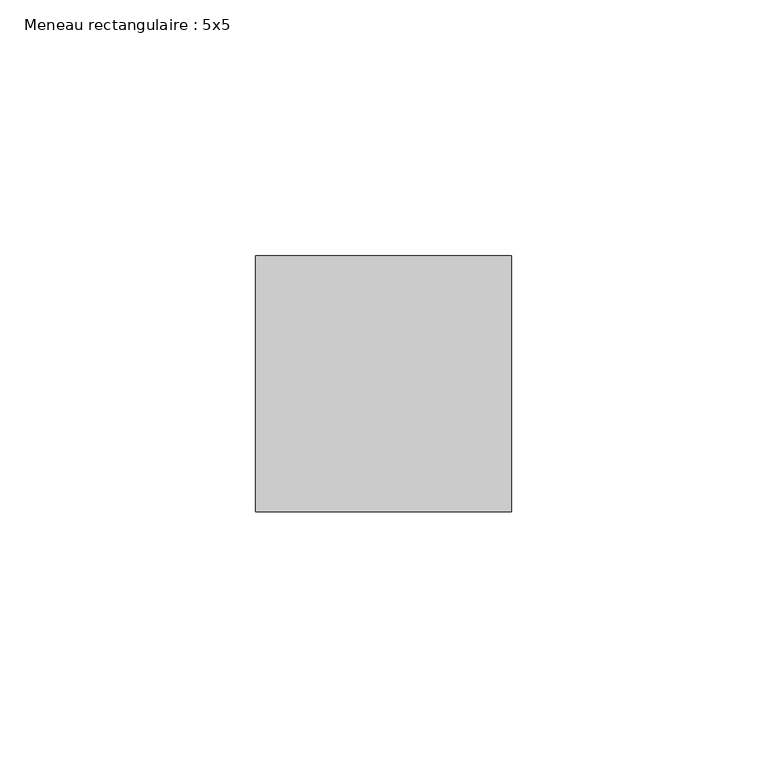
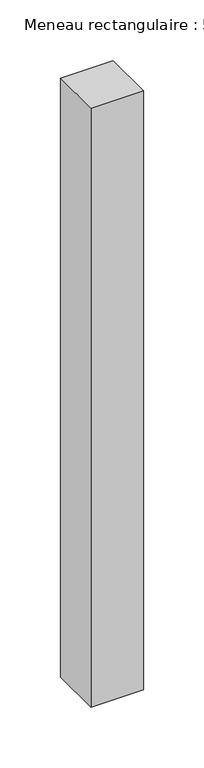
"""IFC4 building model written with IfcOpenShell, lengths in millimetres: member geometry, Meneau rectangulaire : 5x5."""

from ifc_helpers import new_model, si_unit, frame, origin, place, context, project, spatial, polyline, outline, extrude, source, transform, mapped, element, save


def meneau_rectangulaire_5x5_63d626cc(model_context):
    return source(origin(), model_context, "Body", "SweptSolid", [
        extrude(outline(polyline([(25.0, 25.0), (25.0, -25.0), (-25.0, -25.0), (-25.0, 25.0), (25.0, 25.0)])), frame((0.0, 0.0, -602.6511818), z_axis=(0.0, 0.0, 1.0), x_axis=(1.0, 0.0, 0.0)), (0.0, 0.0, 1.0), 602.6511818),
    ])


if __name__ == "__main__":
    model = new_model("IFC4")
    model_context = context("Model", 3, world=origin())
    ifc_project = project(units=[si_unit("LENGTHUNIT", "METRE", prefix="MILLI")], contexts=[model_context])
    site = spatial("IfcSite", under=ifc_project)
    building = spatial("IfcBuilding", under=site)
    placement = place(None, origin())
    meneau_rectangulaire_5x5_shape = meneau_rectangulaire_5x5_63d626cc(model_context)
    element("IfcMember", 1, ObjectType="Meneau rectangulaire : 5x5", at=placement, inside=building, context=model_context, shape_type="MappedRepresentation", body=[
        mapped(meneau_rectangulaire_5x5_shape, transform((0.0, 0.0, 0.0), x_axis=(1.0, 0.0, 0.0), y_axis=(0.0, 1.0, 0.0), z_axis=(0.0, 0.0, 1.0))),
    ])
    save(model, "model.ifc")
